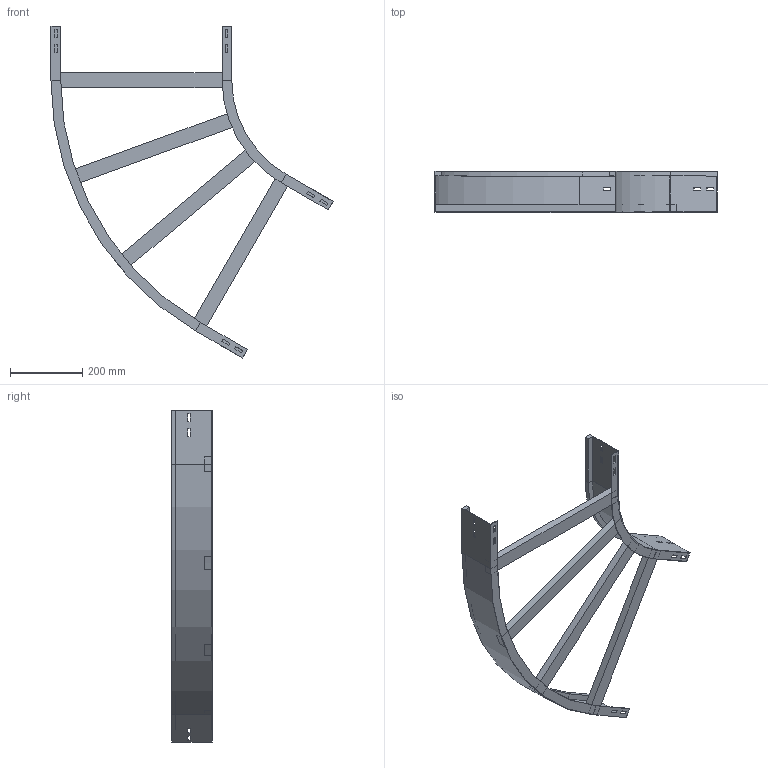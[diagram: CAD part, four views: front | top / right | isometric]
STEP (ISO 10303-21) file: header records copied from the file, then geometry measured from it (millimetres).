
FILE_DESCRIPTION (( 'STEP AP214' ), '1' );
FILE_NAME ('A2_13B3J500.step', '2025-02-21T15:19:32', ( '' ), ( '' ), 'SwSTEP 2.0', 'SolidWorks 2023', '' );
FILE_SCHEMA (( 'AUTOMOTIVE_DESIGN' ));
Length unit declared in the file: millimetre
Products named in the file (4): A2_LONGH.INTERNO 60°_H112.5_R300; A2_LONGH.ESTERNO 60°_H112.5_R300+500; A2_13B3J500; TRAVERSINO_500
Assembly tree (6 placements, depth 2):
  A2_13B3J500
    A2_LONGH.INTERNO 60°_H112.5_R300
    A2_LONGH.ESTERNO 60°_H112.5_R300+500
    TRAVERSINO_500  x4
Bounding box: 779.9 x 112.5 x 917.82 mm (x, y, z)
Volume: 2420257.4 mm3; surface area: 790186.3 mm2
Topology: 6 solids, 6 shells, 140 faces, 352 edges, 224 vertices
Faces by surface type: plane 132, cylinder 8
Entity records: 3829 total; most frequent: CARTESIAN_POINT 647, ORIENTED_EDGE 632, DIRECTION 594, EDGE_CURVE 316, LINE 300, VECTOR 300, VERTEX_POINT 200, EDGE_LOOP 154
